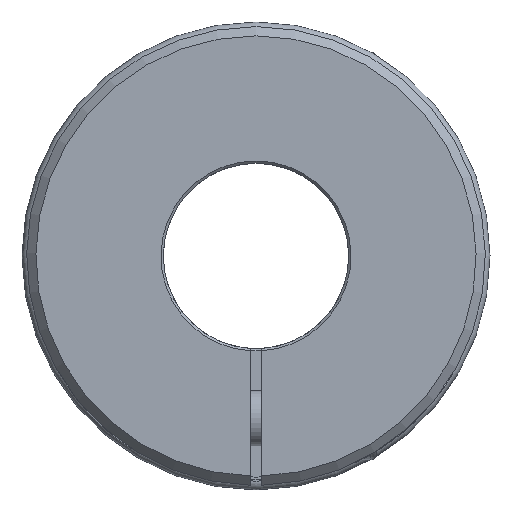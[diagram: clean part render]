
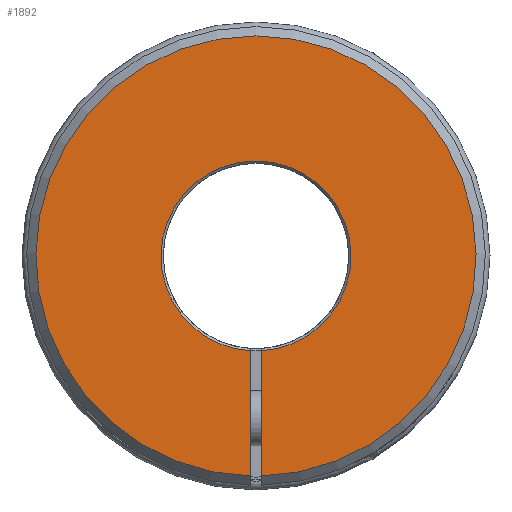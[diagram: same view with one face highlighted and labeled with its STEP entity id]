
A CAD part, left-side view. The second image highlights one B-rep face of the part: STEP entity #1892.
In plain terms, the highlighted planar face has unit normal (-1, 0, 0).
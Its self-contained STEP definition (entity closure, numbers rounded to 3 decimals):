
#196=CIRCLE('',#2145,47.5);
#201=CIRCLE('',#2154,20.5);
#593=ORIENTED_EDGE('',*,*,#858,.F.);
#594=ORIENTED_EDGE('',*,*,#856,.F.);
#595=ORIENTED_EDGE('',*,*,#859,.F.);
#596=ORIENTED_EDGE('',*,*,#844,.T.);
#844=EDGE_CURVE('',#1022,#1024,#196,.T.);
#856=EDGE_CURVE('',#1034,#1035,#201,.T.);
#858=EDGE_CURVE('',#1035,#1024,#1132,.T.);
#859=EDGE_CURVE('',#1022,#1034,#1133,.T.);
#1022=VERTEX_POINT('',#3384);
#1024=VERTEX_POINT('',#3388);
#1034=VERTEX_POINT('',#3511);
#1035=VERTEX_POINT('',#3513);
#1132=LINE('',#3516,#1230);
#1133=LINE('',#3517,#1231);
#1230=VECTOR('',#2737,1000.);
#1231=VECTOR('',#2738,1000.);
#1442=EDGE_LOOP('',(#593,#594,#595,#596));
#1670=FACE_BOUND('',#1442,.T.);
#1760=PLANE('',#2155);
#1892=ADVANCED_FACE('',(#1670),#1760,.T.);
#2145=AXIS2_PLACEMENT_3D('',#3389,#2709,#2710);
#2154=AXIS2_PLACEMENT_3D('',#3512,#2732,#2733);
#2155=AXIS2_PLACEMENT_3D('',#3515,#2735,#2736);
#2709=DIRECTION('',(-1.,0.,0.));
#2710=DIRECTION('',(0.,0.,1.));
#2732=DIRECTION('',(-1.,0.,0.));
#2733=DIRECTION('',(0.,0.,1.));
#2735=DIRECTION('',(-1.,0.,0.));
#2736=DIRECTION('',(0.,0.,1.));
#2737=DIRECTION('',(0.,0.,-1.));
#2738=DIRECTION('',(0.,0.,1.));
#3384=CARTESIAN_POINT('',(-53.,-1.2,-47.485));
#3388=CARTESIAN_POINT('',(-53.,1.2,-47.485));
#3389=CARTESIAN_POINT('',(-53.,0.,0.));
#3511=CARTESIAN_POINT('',(-53.,-1.2,-20.465));
#3512=CARTESIAN_POINT('',(-53.,0.,0.));
#3513=CARTESIAN_POINT('',(-53.,1.2,-20.465));
#3515=CARTESIAN_POINT('',(-53.,0.,20.));
#3516=CARTESIAN_POINT('',(-53.,1.2,-19.964));
#3517=CARTESIAN_POINT('',(-53.,-1.2,-19.964));
